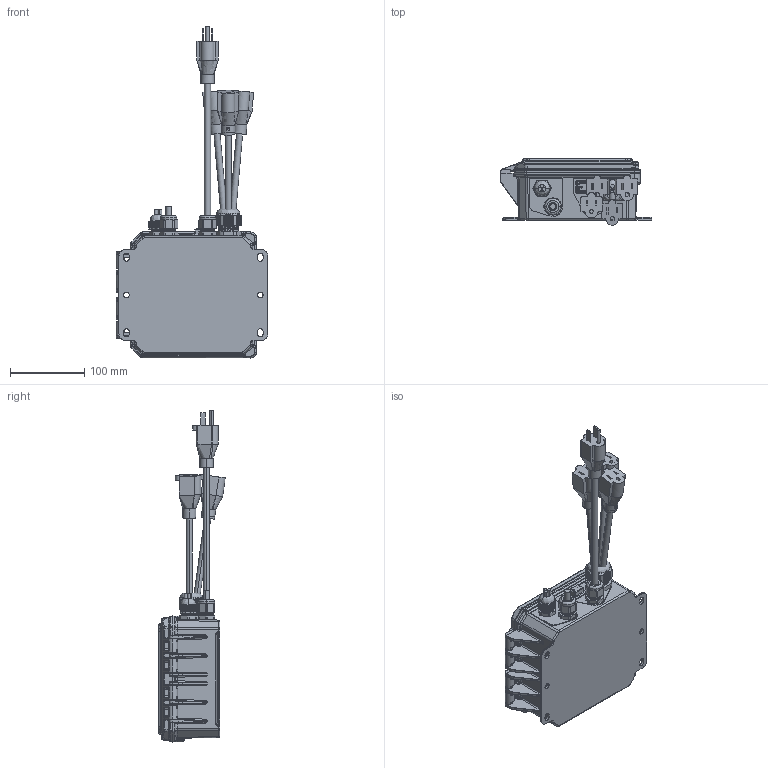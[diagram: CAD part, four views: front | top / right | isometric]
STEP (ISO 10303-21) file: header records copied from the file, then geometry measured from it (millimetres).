
FILE_DESCRIPTION (( 'STEP AP203' ), '1' );
FILE_NAME ('W100 Shell.STEP', '2018-03-09T15:06:21', ( '' ), ( '' ), 'SwSTEP 2.0', 'SolidWorks 2016', '' );
FILE_SCHEMA (( 'CONFIG_CONTROL_DESIGN' ));
Length unit declared in the file: inch
Products named in the file (28): 103809; ISA0007; 102444; 103807; 103803; 103858; 102907; 191611-0X_191611-01; 102906; 1032_375H_insert; ISA0006; 103861; ISA0003; ISA0001_W100 Without BNC ; 103026; 103824; 102903_102903; 191610; PCG-11 nut; 103025; ISA0010; 191610_Gasket; ISA0009; 103859_Cord1; 103860_Cord1; 103938; 103837; W100 Shell
Assembly tree (38 placements, depth 3):
  W100 Shell
    ISA0001_W100 Without BNC 
      191611-0X_191611-01
      1032_375H_insert  x2
      102444
    ISA0003
      191610
      103858  x2
      103824  x3
      103837
      191610_Gasket
    ISA0006
      102907
      102903_102903
      102906
      103860_Cord1  x3
      103861
    ISA0007
      103938
      103859_Cord1
      PCG-11 nut
    103803
    ISA0010
      103938
      PCG-11 nut
      103026
    ISA0009
      103809
      103807
      PCG-11 nut
      103025  x3
Bounding box: 204.2 x 89.69 x 447.45 mm (x, y, z)
Volume: 692692.5 mm3; surface area: 385021 mm2
Topology: 32 solids, 32 shells, 5637 faces, 14816 edges, 9429 vertices
Faces by surface type: plane 3122, cylinder 1245, bspline 1035, cone 211, sphere 14, torus 10
Entity records: 236633 total; most frequent: CARTESIAN_POINT 113882, ORIENTED_EDGE 27880, DIRECTION 19814, EDGE_CURVE 13940, VERTEX_POINT 8900, LINE 8396, VECTOR 8396, AXIS2_PLACEMENT_3D 5709
